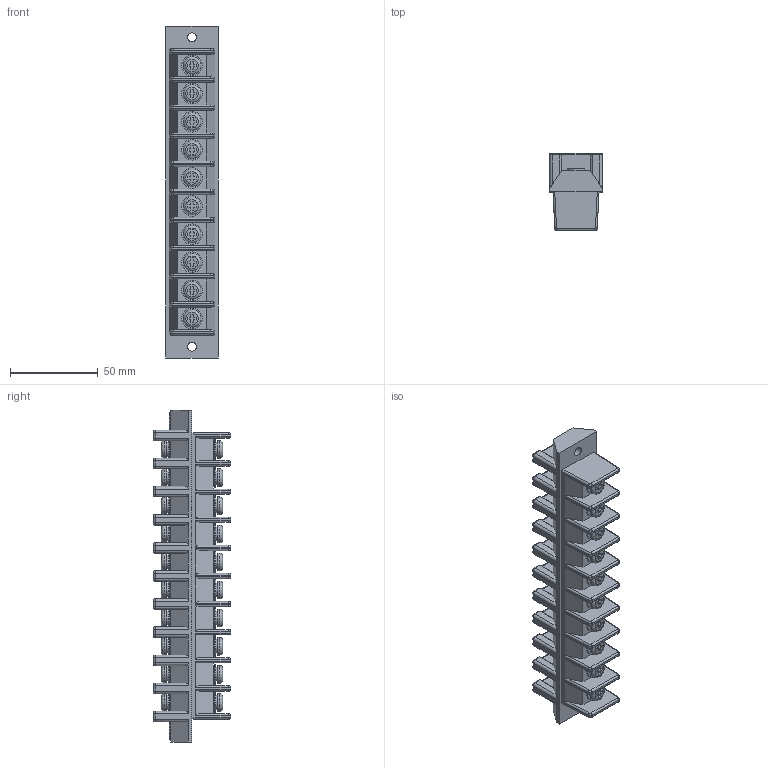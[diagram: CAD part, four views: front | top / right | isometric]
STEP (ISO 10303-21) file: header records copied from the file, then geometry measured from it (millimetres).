
FILE_DESCRIPTION(/* description */ ('Alibre Inc.'),/* implementation_level */ '2;1');
FILE_NAME(/* name */ 'export-AF26A16A-7782-4700-8358-501BBB5903D8',/* time_stamp */ '2025-02-21T13:32:22+09:00',/* author */ (''),/* organization */ (''),/* preprocessor_version */ 'ST-DEVELOPER v17',/* originating_system */ 'Alibre',/* authorisation */ '');
FILE_SCHEMA (('CONFIG_CONTROL_DESIGN'));
Length unit declared in the file: millimetre
Bounding box: 30 x 44 x 189 mm (x, y, z)
Volume: 130363.3 mm3; surface area: 43857.4 mm2
Topology: 1 solids, 31 shells, 1297 faces, 2990 edges, 1858 vertices
Faces by surface type: plane 607, cylinder 498, torus 152, cone 40
Full cylindrical faces by diameter (mm): 4.4 x20, 4.6 x20, 5 x30, 5.2 x2, 8 x20, 9.9 x22, 10 x20, 11.7 x20
Entity records: 34170 total; most frequent: CARTESIAN_POINT 6243, ORIENTED_EDGE 5508, DIRECTION 5437, EDGE_CURVE 2754, AXIS2_PLACEMENT_3D 2307, VERTEX_POINT 1836, EDGE_LOOP 1658, FACE_BOUND 1658
